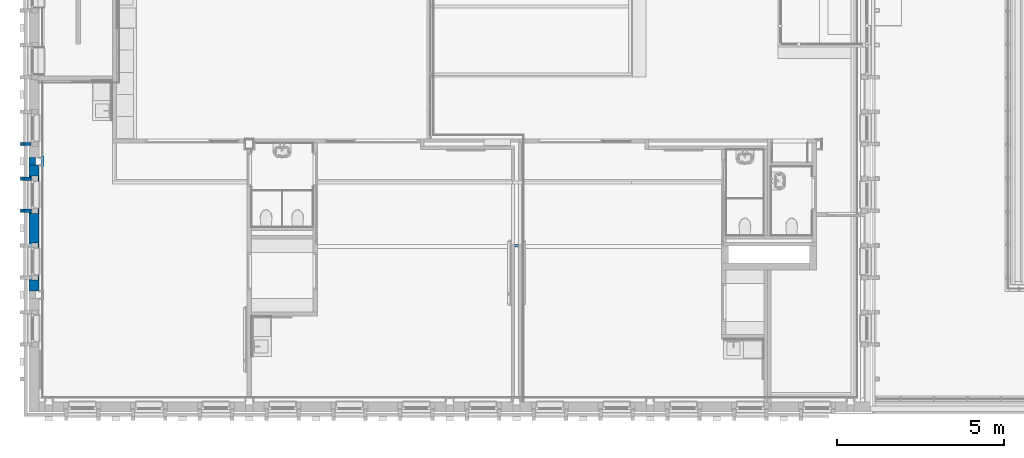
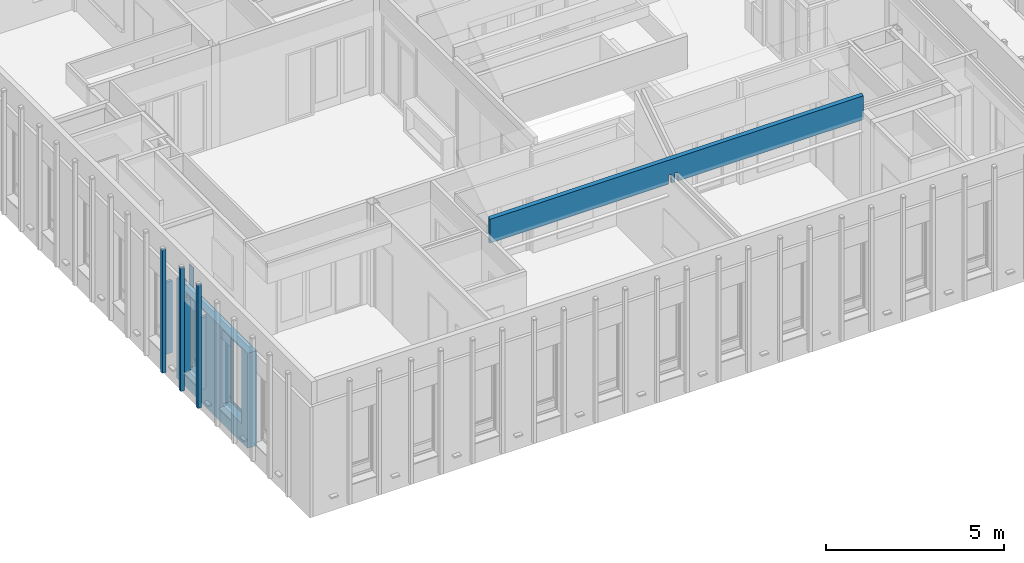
# One storey, part 33 of 118: 10 walls, 11 openings.
"""IFC2X3 building model written with IfcOpenShell, lengths in millimetres."""

from ifc_helpers import new_model, entity, si_unit, converted_unit, derived_unit, direction, frame, frame_2d, origin, place, context, subcontext, project, spatial, polyline, rectangle, extrude, clip, bounded_halfspace, faceted_brep, material, layer, layer_set, layer_usage, type_object, element, save


model = new_model("IFC2X3")

# Units and contexts
model_context = context("Model", 3, precision=0.01, world=origin(), true_north=direction((6.123031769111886e-17, 1.0)))
plan_context = context("Plan", 3, precision=0.01, world=origin(), true_north=direction((6.123031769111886e-17, 1.0)))
body_context = subcontext(model_context, "Body", "Model", "MODEL_VIEW")
ifc_project = project(units=[si_unit("LENGTHUNIT", "METRE", prefix="MILLI"), si_unit("AREAUNIT", "SQUARE_METRE"), si_unit("VOLUMEUNIT", "CUBIC_METRE"), converted_unit("PLANEANGLEUNIT", "DEGREE", entity("IfcRatioMeasure", 0.017453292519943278), si_unit("PLANEANGLEUNIT", "RADIAN"), dimensions=[0, 0, 0, 0, 0, 0, 0]), si_unit("MASSUNIT", "GRAM", prefix="KILO"), derived_unit("MASSDENSITYUNIT", [(si_unit("MASSUNIT", "GRAM", prefix="KILO"), 1), (si_unit("LENGTHUNIT", "METRE"), -3)]), derived_unit("IONCONCENTRATIONUNIT", [(si_unit("MASSUNIT", "GRAM", prefix="KILO"), 1), (si_unit("LENGTHUNIT", "METRE"), -3)]), derived_unit("MOMENTOFINERTIAUNIT", [(si_unit("LENGTHUNIT", "METRE"), 4)]), si_unit("TIMEUNIT", "SECOND"), si_unit("FREQUENCYUNIT", "HERTZ"), si_unit("THERMODYNAMICTEMPERATUREUNIT", "DEGREE_CELSIUS"), derived_unit("THERMALTRANSMITTANCEUNIT", [(si_unit("MASSUNIT", "GRAM", prefix="KILO"), 1), (si_unit("THERMODYNAMICTEMPERATUREUNIT", "KELVIN"), -1), (si_unit("TIMEUNIT", "SECOND"), -3)]), derived_unit("THERMALCONDUCTANCEUNIT", [(si_unit("MASSUNIT", "GRAM", prefix="KILO"), 1), (si_unit("THERMODYNAMICTEMPERATUREUNIT", "KELVIN"), -1), (si_unit("TIMEUNIT", "SECOND"), -3), (si_unit("LENGTHUNIT", "METRE"), 1)]), derived_unit("VOLUMETRICFLOWRATEUNIT", [(si_unit("LENGTHUNIT", "METRE"), 3), (si_unit("TIMEUNIT", "SECOND"), -1)]), derived_unit("MASSFLOWRATEUNIT", [(si_unit("MASSUNIT", "GRAM", prefix="KILO"), 1), (si_unit("TIMEUNIT", "SECOND"), -1)]), derived_unit("ROTATIONALFREQUENCYUNIT", [(si_unit("TIMEUNIT", "SECOND"), -1)]), si_unit("ELECTRICCURRENTUNIT", "AMPERE"), si_unit("ELECTRICVOLTAGEUNIT", "VOLT"), si_unit("POWERUNIT", "WATT"), si_unit("FORCEUNIT", "NEWTON", prefix="KILO"), si_unit("ILLUMINANCEUNIT", "LUX"), si_unit("LUMINOUSFLUXUNIT", "LUMEN"), si_unit("LUMINOUSINTENSITYUNIT", "CANDELA"), derived_unit("USERDEFINED", [(si_unit("MASSUNIT", "GRAM", prefix="KILO"), -1), (si_unit("LENGTHUNIT", "METRE"), -2), (si_unit("TIMEUNIT", "SECOND"), 3), (si_unit("LUMINOUSFLUXUNIT", "LUMEN"), 1)]), derived_unit("USERDEFINED", [(si_unit("MASSUNIT", "GRAM", prefix="KILO"), 1), (si_unit("TIMEUNIT", "SECOND"), -3), (si_unit("LENGTHUNIT", "METRE"), 3), (si_unit("ELECTRICCURRENTUNIT", "AMPERE"), -2)]), derived_unit("SOUNDPOWERUNIT", [(si_unit("MASSUNIT", "GRAM", prefix="KILO"), 1), (si_unit("TIMEUNIT", "SECOND"), -3), (si_unit("LENGTHUNIT", "METRE"), 2)]), derived_unit("SOUNDPRESSUREUNIT", [(si_unit("MASSUNIT", "GRAM", prefix="KILO"), 1), (si_unit("LENGTHUNIT", "METRE"), -1), (si_unit("TIMEUNIT", "SECOND"), -2)]), derived_unit("LINEARVELOCITYUNIT", [(si_unit("LENGTHUNIT", "METRE"), 1), (si_unit("TIMEUNIT", "SECOND"), -1)]), si_unit("PRESSUREUNIT", "PASCAL"), derived_unit("USERDEFINED", [(si_unit("MASSUNIT", "GRAM", prefix="KILO"), 1), (si_unit("LENGTHUNIT", "METRE"), -2), (si_unit("TIMEUNIT", "SECOND"), -2)]), derived_unit("LINEARFORCEUNIT", [(si_unit("MASSUNIT", "GRAM", prefix="KILO"), 1), (si_unit("TIMEUNIT", "SECOND"), -2)]), derived_unit("PLANARFORCEUNIT", [(si_unit("MASSUNIT", "GRAM", prefix="KILO"), 1), (si_unit("LENGTHUNIT", "METRE"), -1), (si_unit("TIMEUNIT", "SECOND"), -2)]), derived_unit("SPECIFICHEATCAPACITYUNIT", [(si_unit("THERMODYNAMICTEMPERATUREUNIT", "KELVIN"), -1), (si_unit("LENGTHUNIT", "METRE"), 2), (si_unit("TIMEUNIT", "SECOND"), -2)]), derived_unit("HEATINGVALUEUNIT", [(si_unit("LENGTHUNIT", "METRE"), 2), (si_unit("TIMEUNIT", "SECOND"), -2)]), derived_unit("VAPORPERMEABILITYUNIT", [(si_unit("LENGTHUNIT", "METRE"), -1), (si_unit("TIMEUNIT", "SECOND"), 1)]), derived_unit("DYNAMICVISCOSITYUNIT", [(si_unit("MASSUNIT", "GRAM", prefix="KILO"), 1), (si_unit("TIMEUNIT", "SECOND"), -1), (si_unit("LENGTHUNIT", "METRE"), -1)]), derived_unit("THERMALEXPANSIONCOEFFICIENTUNIT", [(si_unit("THERMODYNAMICTEMPERATUREUNIT", "KELVIN"), -1)]), derived_unit("MODULUSOFELASTICITYUNIT", [(si_unit("MASSUNIT", "GRAM", prefix="KILO"), 1), (si_unit("LENGTHUNIT", "METRE"), -1), (si_unit("TIMEUNIT", "SECOND"), -2)]), derived_unit("ISOTHERMALMOISTURECAPACITYUNIT", [(si_unit("LENGTHUNIT", "METRE"), 3), (si_unit("MASSUNIT", "GRAM", prefix="KILO"), -1)]), derived_unit("MOISTUREDIFFUSIVITYUNIT", [(si_unit("TIMEUNIT", "SECOND"), -1), (si_unit("LENGTHUNIT", "METRE"), 2)])], contexts=[model_context, plan_context])

# Site, building, storey
site_placement = place(None, origin())
site = spatial("IfcSite", under=ifc_project, at=site_placement, Name="Locatie", CompositionType="ELEMENT")
building_placement = place(site_placement, origin())
building = spatial("IfcBuilding", under=site, at=building_placement, Name="Bouwwerk", CompositionType="ELEMENT")
storey_placement = place(building_placement, frame((0.0, 0.0, 7800.0)))
storey = spatial("IfcBuildingStorey", under=building, at=storey_placement, Name="02 tweede verdieping", CompositionType="ELEMENT", Elevation=7800.000000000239)

# Wall, openings
ifc_material_1 = material(Name="n7_isolatie_glaswol")
ifc_layer_1 = layer(ifc_material_1, 30.0)
ifc_layer_2 = layer(ifc_material_1, 245.0)
ifc_material_2 = material(Name="i4_multiplex")
ifc_layer_3 = layer(ifc_material_2, 12.0)
ifc_material_3 = material(Name="f7_gipsvezel")
ifc_layer_4 = layer(ifc_material_3, 13.000000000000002)
ifc_layer_set_1 = layer_set([ifc_layer_1, ifc_layer_2, ifc_layer_3, ifc_layer_4], Name="Basic Wall:NLRS_22_WA_HSB bispouw 30-245-12-13 glaswol_gen_ISR")
ifc_layer_usage_1 = layer_usage(ifc_layer_set_1, "AXIS2", "NEGATIVE", 150.0)
wall_type_1 = type_object("IfcWallType", Name="Basic Wall:NLRS_22_WA_HSB bispouw 30-245-12-13 glaswol_gen_ISR", PredefinedType="STANDARD", material=ifc_layer_set_1)
wall_1_placement = place(storey_placement, frame((9850.0, 13310.0, -30.0), z_axis=(0.0, 0.0, 1.0), x_axis=(0.0, 1.0, 0.0)))
wall_1 = element("IfcWallStandardCase", 1, at=wall_1_placement, inside=storey, type_object=wall_type_1, material=ifc_layer_usage_1, Name="Basic Wall:NLRS_22_WA_HSB bispouw 30-245-12-13 glaswol_gen_ISR", ObjectType="Basic Wall:NLRS_22_WA_HSB bispouw 30-245-12-13 glaswol_gen_ISR", context=body_context, shape_type="SweptSolid", body=[
    extrude(rectangle(XDim=3779.2445138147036, YDim=300.0000000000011, at=frame_2d((1889.6222569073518, 0.0), x_axis=(-1.0, 0.0))), origin(), (0.0, 0.0, 1.0), 3266.0000000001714),
])
opening_1_placement = place(wall_1_placement, frame((-1666.0, 290.0, 633.0)))
element("IfcOpeningElement", 2, at=opening_1_placement, cuts=wall_1, Name="Basic Wall:NLRS_22_WA_HSB bispouw 30-245-12-13 glaswol_gen_ISR", ObjectType="Opening", context=body_context, shape_type="Brep", body=[
    faceted_brep([(1088.0, -100.0, 2472.0), (1009.0, -100.0, 2472.0), (1009.0, -100.0, 42.0), (103.0, -100.0, 42.0), (103.0, -100.0, 2472.0), (24.0, -100.0, 2472.0), (24.0, -100.0, 0.0), (1088.0, -100.0, 0.0), (24.0, 0.0, 2472.0), (1088.0, 0.0, 2472.0), (1088.0, 0.0, 0.0), (24.0, 0.0, 0.0), (0.0, -415.0, 2594.0), (0.0, -415.0, 11.0), (1112.0, -415.0, 11.0), (1112.0, -415.0, 2594.0), (148.0, -415.0, 2443.0), (964.0, -415.0, 2443.0), (964.0, -415.0, 87.0), (148.0, -415.0, 87.0), (0.0, -140.0, 2594.0), (1112.0, -140.0, 2594.0), (1112.0, -140.0, 11.0), (0.0, -140.0, 11.0), (103.0, -140.0, 42.0), (1009.0, -140.0, 42.0), (1009.0, -140.0, 2508.0), (103.0, -140.0, 2508.0), (1009.0, -100.0, 2508.0), (103.0, -100.0, 2508.0), (148.0, -615.0, 2443.0), (148.0, -615.0, 87.0), (964.0, -615.0, 87.0), (964.0, -615.0, 2443.0)], [[[0, 1, 2, 3, 4, 5, 6, 7]], [[8, 9, 10, 11]], [[5, 8, 11, 6]], [[6, 11, 10, 7]], [[7, 10, 9, 0]], [[8, 5, 4, 1, 0, 9]], [[12, 13, 14, 15], [16, 17, 18, 19]], [[20, 21, 22, 23], [24, 25, 26, 27]], [[12, 20, 23, 13]], [[13, 23, 22, 14]], [[14, 22, 21, 15]], [[15, 21, 20, 12]], [[28, 1, 4, 29]], [[24, 27, 29, 4, 3]], [[3, 2, 25, 24]], [[2, 1, 28, 26, 25]], [[29, 27, 26, 28]], [[30, 31, 32, 33]], [[30, 16, 19, 31]], [[31, 19, 18, 32]], [[32, 18, 17, 33]], [[33, 17, 16, 30]]]),
])
opening_2_placement = place(wall_1_placement, frame((4334.0, 290.0, 633.0)))
element("IfcOpeningElement", 3, at=opening_2_placement, cuts=wall_1, Name="Basic Wall:NLRS_22_WA_HSB bispouw 30-245-12-13 glaswol_gen_ISR", ObjectType="Opening", context=body_context, shape_type="Brep", body=[
    faceted_brep([(1088.0, -100.0, 2472.0), (1009.0, -100.0, 2472.0), (1009.0, -100.0, 42.0), (103.0, -100.0, 42.0), (103.0, -100.0, 2472.0), (24.0, -100.0, 2472.0), (24.0, -100.0, 0.0), (1088.0, -100.0, 0.0), (24.0, 0.0, 2472.0), (1088.0, 0.0, 2472.0), (1088.0, 0.0, 0.0), (24.0, 0.0, 0.0), (0.0, -415.0, 2594.0), (0.0, -415.0, 11.0), (1112.0, -415.0, 11.0), (1112.0, -415.0, 2594.0), (148.0, -415.0, 2443.0), (964.0, -415.0, 2443.0), (964.0, -415.0, 87.0), (148.0, -415.0, 87.0), (0.0, -140.0, 2594.0), (1112.0, -140.0, 2594.0), (1112.0, -140.0, 11.0), (0.0, -140.0, 11.0), (103.0, -140.0, 42.0), (1009.0, -140.0, 42.0), (1009.0, -140.0, 2508.0), (103.0, -140.0, 2508.0), (1009.0, -100.0, 2508.0), (103.0, -100.0, 2508.0), (148.0, -615.0, 2443.0), (148.0, -615.0, 87.0), (964.0, -615.0, 87.0), (964.0, -615.0, 2443.0)], [[[0, 1, 2, 3, 4, 5, 6, 7]], [[8, 9, 10, 11]], [[5, 8, 11, 6]], [[6, 11, 10, 7]], [[7, 10, 9, 0]], [[8, 5, 4, 1, 0, 9]], [[12, 13, 14, 15], [16, 17, 18, 19]], [[20, 21, 22, 23], [24, 25, 26, 27]], [[12, 20, 23, 13]], [[13, 23, 22, 14]], [[14, 22, 21, 15]], [[15, 21, 20, 12]], [[28, 1, 4, 29]], [[24, 27, 29, 4, 3]], [[3, 2, 25, 24]], [[2, 1, 28, 26, 25]], [[29, 27, 26, 28]], [[30, 31, 32, 33]], [[30, 16, 19, 31]], [[31, 19, 18, 32]], [[32, 18, 17, 33]], [[33, 17, 16, 30]]]),
])
opening_3_placement = place(wall_1_placement, frame((6334.0, 290.0, 633.0)))
element("IfcOpeningElement", 4, at=opening_3_placement, cuts=wall_1, Name="Basic Wall:NLRS_22_WA_HSB bispouw 30-245-12-13 glaswol_gen_ISR", ObjectType="Opening", context=body_context, shape_type="Brep", body=[
    faceted_brep([(24.0, -100.0, 0.0), (24.0, 0.0, 0.0), (1088.0, 0.0, 0.0), (1088.0, -100.0, 0.0), (0.0, -415.0, 11.0), (0.0, -140.0, 11.0), (1112.0, -140.0, 11.0), (1112.0, -415.0, 11.0), (103.0, -100.0, 42.0), (1009.0, -100.0, 42.0), (1009.0, -140.0, 42.0), (103.0, -140.0, 42.0), (1088.0, -100.0, 2472.0), (1009.0, -100.0, 2472.0), (103.0, -100.0, 2472.0), (24.0, -100.0, 2472.0), (24.0, 0.0, 2472.0), (1088.0, 0.0, 2472.0), (0.0, -415.0, 2594.0), (1112.0, -415.0, 2594.0), (148.0, -415.0, 2443.0), (964.0, -415.0, 2443.0), (964.0, -415.0, 87.0), (148.0, -415.0, 87.0), (0.0, -140.0, 2594.0), (1112.0, -140.0, 2594.0), (1009.0, -140.0, 2508.0), (103.0, -140.0, 2508.0), (1009.0, -100.0, 2508.0), (103.0, -100.0, 2508.0), (148.0, -615.0, 2443.0), (148.0, -615.0, 87.0), (964.0, -615.0, 87.0), (964.0, -615.0, 2443.0)], [[[0, 1, 2, 3]], [[4, 5, 6, 7]], [[8, 9, 10, 11]], [[12, 13, 9, 8, 14, 15, 0, 3]], [[16, 17, 2, 1]], [[15, 16, 1, 0]], [[3, 2, 17, 12]], [[16, 15, 14, 13, 12, 17]], [[18, 4, 7, 19], [20, 21, 22, 23]], [[24, 25, 6, 5], [11, 10, 26, 27]], [[18, 24, 5, 4]], [[7, 6, 25, 19]], [[19, 25, 24, 18]], [[28, 13, 14, 29]], [[11, 27, 29, 14, 8]], [[9, 13, 28, 26, 10]], [[29, 27, 26, 28]], [[30, 31, 32, 33]], [[30, 20, 23, 31]], [[31, 23, 22, 32]], [[32, 22, 21, 33]], [[33, 21, 20, 30]]]),
])
opening_4_placement = place(wall_1_placement, frame((8334.0, 290.0, 633.0)))
element("IfcOpeningElement", 5, at=opening_4_placement, cuts=wall_1, Name="Basic Wall:NLRS_22_WA_HSB bispouw 30-245-12-13 glaswol_gen_ISR", ObjectType="Opening", context=body_context, shape_type="Brep", body=[
    faceted_brep([(24.0, -100.0, 0.0), (24.0, 0.0, 0.0), (1088.0, 0.0, 0.0), (1088.0, -100.0, 0.0), (0.0, -415.0, 11.0), (0.0, -140.0, 11.0), (1112.0, -140.0, 11.0), (1112.0, -415.0, 11.0), (103.0, -100.0, 42.0), (1009.0, -100.0, 42.0), (1009.0, -140.0, 42.0), (103.0, -140.0, 42.0), (1088.0, -100.0, 2472.0), (1009.0, -100.0, 2472.0), (103.0, -100.0, 2472.0), (24.0, -100.0, 2472.0), (24.0, 0.0, 2472.0), (1088.0, 0.0, 2472.0), (0.0, -415.0, 2594.0), (1112.0, -415.0, 2594.0), (148.0, -415.0, 2443.0), (964.0, -415.0, 2443.0), (964.0, -415.0, 87.0), (148.0, -415.0, 87.0), (0.0, -140.0, 2594.0), (1112.0, -140.0, 2594.0), (1009.0, -140.0, 2508.0), (103.0, -140.0, 2508.0), (1009.0, -100.0, 2508.0), (103.0, -100.0, 2508.0), (148.0, -615.0, 2443.0), (148.0, -615.0, 87.0), (964.0, -615.0, 87.0), (964.0, -615.0, 2443.0)], [[[0, 1, 2, 3]], [[4, 5, 6, 7]], [[8, 9, 10, 11]], [[12, 13, 9, 8, 14, 15, 0, 3]], [[16, 17, 2, 1]], [[15, 16, 1, 0]], [[3, 2, 17, 12]], [[16, 15, 14, 13, 12, 17]], [[18, 4, 7, 19], [20, 21, 22, 23]], [[24, 25, 6, 5], [11, 10, 26, 27]], [[18, 24, 5, 4]], [[7, 6, 25, 19]], [[19, 25, 24, 18]], [[28, 13, 14, 29]], [[11, 27, 29, 14, 8]], [[9, 13, 28, 26, 10]], [[29, 27, 26, 28]], [[30, 31, 32, 33]], [[30, 20, 23, 31]], [[31, 23, 22, 32]], [[32, 22, 21, 33]], [[33, 21, 20, 30]]]),
])
opening_5_placement = place(wall_1_placement, frame((10334.0, 290.0, 633.0)))
element("IfcOpeningElement", 6, at=opening_5_placement, cuts=wall_1, Name="Basic Wall:NLRS_22_WA_HSB bispouw 30-245-12-13 glaswol_gen_ISR", ObjectType="Opening", context=body_context, shape_type="Brep", body=[
    faceted_brep([(1088.0, -100.0, 2472.0), (1009.0, -100.0, 2472.0), (1009.0, -100.0, 42.0), (103.0, -100.0, 42.0), (103.0, -100.0, 2472.0), (24.0, -100.0, 2472.0), (24.0, -100.0, 0.0), (1088.0, -100.0, 0.0), (24.0, 0.0, 2472.0), (1088.0, 0.0, 2472.0), (1088.0, 0.0, 0.0), (24.0, 0.0, 0.0), (0.0, -415.0, 2594.0), (0.0, -415.0, 11.0), (1112.0, -415.0, 11.0), (1112.0, -415.0, 2594.0), (148.0, -415.0, 2443.0), (964.0, -415.0, 2443.0), (964.0, -415.0, 87.0), (148.0, -415.0, 87.0), (0.0, -140.0, 2594.0), (1112.0, -140.0, 2594.0), (1112.0, -140.0, 11.0), (0.0, -140.0, 11.0), (103.0, -140.0, 42.0), (1009.0, -140.0, 42.0), (1009.0, -140.0, 2508.0), (103.0, -140.0, 2508.0), (1009.0, -100.0, 2508.0), (103.0, -100.0, 2508.0), (148.0, -615.0, 2443.0), (148.0, -615.0, 87.0), (964.0, -615.0, 87.0), (964.0, -615.0, 2443.0)], [[[0, 1, 2, 3, 4, 5, 6, 7]], [[8, 9, 10, 11]], [[5, 8, 11, 6]], [[6, 11, 10, 7]], [[7, 10, 9, 0]], [[8, 5, 4, 1, 0, 9]], [[12, 13, 14, 15], [16, 17, 18, 19]], [[20, 21, 22, 23], [24, 25, 26, 27]], [[12, 20, 23, 13]], [[13, 23, 22, 14]], [[14, 22, 21, 15]], [[15, 21, 20, 12]], [[28, 1, 4, 29]], [[24, 27, 29, 4, 3]], [[3, 2, 25, 24]], [[2, 1, 28, 26, 25]], [[29, 27, 26, 28]], [[30, 31, 32, 33]], [[30, 16, 19, 31]], [[31, 19, 18, 32]], [[32, 18, 17, 33]], [[33, 17, 16, 30]]]),
])
opening_6_placement = place(wall_1_placement, frame((12334.0, 290.0, 633.0)))
element("IfcOpeningElement", 7, at=opening_6_placement, cuts=wall_1, Name="Basic Wall:NLRS_22_WA_HSB bispouw 30-245-12-13 glaswol_gen_ISR", ObjectType="Opening", context=body_context, shape_type="Brep", body=[
    faceted_brep([(1088.0, -100.0, 2472.0), (1009.0, -100.0, 2472.0), (1009.0, -100.0, 42.0), (103.0, -100.0, 42.0), (103.0, -100.0, 2472.0), (24.0, -100.0, 2472.0), (24.0, -100.0, 0.0), (1088.0, -100.0, 0.0), (24.0, 0.0, 2472.0), (1088.0, 0.0, 2472.0), (1088.0, 0.0, 0.0), (24.0, 0.0, 0.0), (0.0, -415.0, 2594.0), (0.0, -415.0, 11.0), (1112.0, -415.0, 11.0), (1112.0, -415.0, 2594.0), (148.0, -415.0, 2443.0), (964.0, -415.0, 2443.0), (964.0, -415.0, 87.0), (148.0, -415.0, 87.0), (0.0, -140.0, 2594.0), (1112.0, -140.0, 2594.0), (1112.0, -140.0, 11.0), (0.0, -140.0, 11.0), (103.0, -140.0, 42.0), (1009.0, -140.0, 42.0), (1009.0, -140.0, 2508.0), (103.0, -140.0, 2508.0), (1009.0, -100.0, 2508.0), (103.0, -100.0, 2508.0), (148.0, -615.0, 2443.0), (148.0, -615.0, 87.0), (964.0, -615.0, 87.0), (964.0, -615.0, 2443.0)], [[[0, 1, 2, 3, 4, 5, 6, 7]], [[8, 9, 10, 11]], [[5, 8, 11, 6]], [[6, 11, 10, 7]], [[7, 10, 9, 0]], [[8, 5, 4, 1, 0, 9]], [[12, 13, 14, 15], [16, 17, 18, 19]], [[20, 21, 22, 23], [24, 25, 26, 27]], [[12, 20, 23, 13]], [[13, 23, 22, 14]], [[14, 22, 21, 15]], [[15, 21, 20, 12]], [[28, 1, 4, 29]], [[24, 27, 29, 4, 3]], [[3, 2, 25, 24]], [[2, 1, 28, 26, 25]], [[29, 27, 26, 28]], [[30, 31, 32, 33]], [[30, 16, 19, 31]], [[31, 19, 18, 32]], [[32, 18, 17, 33]], [[33, 17, 16, 30]]]),
])
opening_7_placement = place(wall_1_placement, frame((14334.0, 290.0, 633.0)))
element("IfcOpeningElement", 8, at=opening_7_placement, cuts=wall_1, Name="Basic Wall:NLRS_22_WA_HSB bispouw 30-245-12-13 glaswol_gen_ISR", ObjectType="Opening", context=body_context, shape_type="Brep", body=[
    faceted_brep([(1088.0, -100.0, 2472.0), (1009.0, -100.0, 2472.0), (1009.0, -100.0, 42.0), (103.0, -100.0, 42.0), (103.0, -100.0, 2472.0), (24.0, -100.0, 2472.0), (24.0, -100.0, 0.0), (1088.0, -100.0, 0.0), (24.0, 0.0, 2472.0), (1088.0, 0.0, 2472.0), (1088.0, 0.0, 0.0), (24.0, 0.0, 0.0), (0.0, -415.0, 2594.0), (0.0, -415.0, 11.0), (1112.0, -415.0, 11.0), (1112.0, -415.0, 2594.0), (148.0, -415.0, 2443.0), (964.0, -415.0, 2443.0), (964.0, -415.0, 87.0), (148.0, -415.0, 87.0), (0.0, -140.0, 2594.0), (1112.0, -140.0, 2594.0), (1112.0, -140.0, 11.0), (0.0, -140.0, 11.0), (103.0, -140.0, 42.0), (1009.0, -140.0, 42.0), (1009.0, -140.0, 2508.0), (103.0, -140.0, 2508.0), (1009.0, -100.0, 2508.0), (103.0, -100.0, 2508.0), (148.0, -615.0, 2443.0), (148.0, -615.0, 87.0), (964.0, -615.0, 87.0), (964.0, -615.0, 2443.0)], [[[0, 1, 2, 3, 4, 5, 6, 7]], [[8, 9, 10, 11]], [[5, 8, 11, 6]], [[6, 11, 10, 7]], [[7, 10, 9, 0]], [[8, 5, 4, 1, 0, 9]], [[12, 13, 14, 15], [16, 17, 18, 19]], [[20, 21, 22, 23], [24, 25, 26, 27]], [[12, 20, 23, 13]], [[13, 23, 22, 14]], [[14, 22, 21, 15]], [[15, 21, 20, 12]], [[28, 1, 4, 29]], [[24, 27, 29, 4, 3]], [[3, 2, 25, 24]], [[2, 1, 28, 26, 25]], [[29, 27, 26, 28]], [[30, 31, 32, 33]], [[30, 16, 19, 31]], [[31, 19, 18, 32]], [[32, 18, 17, 33]], [[33, 17, 16, 30]]]),
])
opening_8_placement = place(wall_1_placement, frame((16334.0, 290.0, 633.0)))
element("IfcOpeningElement", 9, at=opening_8_placement, cuts=wall_1, Name="Basic Wall:NLRS_22_WA_HSB bispouw 30-245-12-13 glaswol_gen_ISR", ObjectType="Opening", context=body_context, shape_type="Brep", body=[
    faceted_brep([(1088.0, -100.0, 2472.0), (1009.0, -100.0, 2472.0), (1009.0, -100.0, 42.0), (103.0, -100.0, 42.0), (103.0, -100.0, 2472.0), (24.0, -100.0, 2472.0), (24.0, -100.0, 0.0), (1088.0, -100.0, 0.0), (24.0, 0.0, 2472.0), (1088.0, 0.0, 2472.0), (1088.0, 0.0, 0.0), (24.0, 0.0, 0.0), (0.0, -415.0, 2594.0), (0.0, -415.0, 11.0), (1112.0, -415.0, 11.0), (1112.0, -415.0, 2594.0), (148.0, -415.0, 2443.0), (964.0, -415.0, 2443.0), (964.0, -415.0, 87.0), (148.0, -415.0, 87.0), (0.0, -140.0, 2594.0), (1112.0, -140.0, 2594.0), (1112.0, -140.0, 11.0), (0.0, -140.0, 11.0), (103.0, -140.0, 42.0), (1009.0, -140.0, 42.0), (1009.0, -140.0, 2508.0), (103.0, -140.0, 2508.0), (1009.0, -100.0, 2508.0), (103.0, -100.0, 2508.0), (148.0, -615.0, 2443.0), (148.0, -615.0, 87.0), (964.0, -615.0, 87.0), (964.0, -615.0, 2443.0)], [[[0, 1, 2, 3, 4, 5, 6, 7]], [[8, 9, 10, 11]], [[5, 8, 11, 6]], [[6, 11, 10, 7]], [[7, 10, 9, 0]], [[8, 5, 4, 1, 0, 9]], [[12, 13, 14, 15], [16, 17, 18, 19]], [[20, 21, 22, 23], [24, 25, 26, 27]], [[12, 20, 23, 13]], [[13, 23, 22, 14]], [[14, 22, 21, 15]], [[15, 21, 20, 12]], [[28, 1, 4, 29]], [[24, 27, 29, 4, 3]], [[3, 2, 25, 24]], [[2, 1, 28, 26, 25]], [[29, 27, 26, 28]], [[30, 31, 32, 33]], [[30, 16, 19, 31]], [[31, 19, 18, 32]], [[32, 18, 17, 33]], [[33, 17, 16, 30]]]),
])
opening_9_placement = place(wall_1_placement, frame((18334.0, 290.0, 633.0)))
element("IfcOpeningElement", 10, at=opening_9_placement, cuts=wall_1, Name="Basic Wall:NLRS_22_WA_HSB bispouw 30-245-12-13 glaswol_gen_ISR", ObjectType="Opening", context=body_context, shape_type="Brep", body=[
    faceted_brep([(1088.0, -100.0, 2472.0), (1009.0, -100.0, 2472.0), (1009.0, -100.0, 42.0), (103.0, -100.0, 42.0), (103.0, -100.0, 2472.0), (24.0, -100.0, 2472.0), (24.0, -100.0, 0.0), (1088.0, -100.0, 0.0), (24.0, 0.0, 2472.0), (1088.0, 0.0, 2472.0), (1088.0, 0.0, 0.0), (24.0, 0.0, 0.0), (0.0, -415.0, 2594.0), (0.0, -415.0, 11.0), (1112.0, -415.0, 11.0), (1112.0, -415.0, 2594.0), (148.0, -415.0, 2443.0), (964.0, -415.0, 2443.0), (964.0, -415.0, 87.0), (148.0, -415.0, 87.0), (0.0, -140.0, 2594.0), (1112.0, -140.0, 2594.0), (1112.0, -140.0, 11.0), (0.0, -140.0, 11.0), (103.0, -140.0, 42.0), (1009.0, -140.0, 42.0), (1009.0, -140.0, 2508.0), (103.0, -140.0, 2508.0), (1009.0, -100.0, 2508.0), (103.0, -100.0, 2508.0), (148.0, -615.0, 2443.0), (148.0, -615.0, 87.0), (964.0, -615.0, 87.0), (964.0, -615.0, 2443.0)], [[[0, 1, 2, 3, 4, 5, 6, 7]], [[8, 9, 10, 11]], [[5, 8, 11, 6]], [[6, 11, 10, 7]], [[7, 10, 9, 0]], [[8, 5, 4, 1, 0, 9]], [[12, 13, 14, 15], [16, 17, 18, 19]], [[20, 21, 22, 23], [24, 25, 26, 27]], [[12, 20, 23, 13]], [[13, 23, 22, 14]], [[14, 22, 21, 15]], [[15, 21, 20, 12]], [[28, 1, 4, 29]], [[24, 27, 29, 4, 3]], [[3, 2, 25, 24]], [[2, 1, 28, 26, 25]], [[29, 27, 26, 28]], [[30, 31, 32, 33]], [[30, 16, 19, 31]], [[31, 19, 18, 32]], [[32, 18, 17, 33]], [[33, 17, 16, 30]]]),
])
opening_10_placement = place(wall_1_placement, frame((2334.0, 290.0, 633.0), z_axis=(0.0, 0.0, 1.0), x_axis=(0.0, -1.0, 0.0)))
element("IfcOpeningElement", 11, at=opening_10_placement, cuts=wall_1, Name="Basic Wall:NLRS_22_WA_HSB bispouw 30-245-12-13 glaswol_gen_ISR", ObjectType="Opening", context=body_context, shape_type="Brep", body=[
    faceted_brep([(100.0, 1088.0, 2472.0), (100.0, 1009.0, 2472.0), (100.0, 1009.0, 42.0), (100.0, 103.0, 42.0), (100.0, 103.0, 2472.0), (100.0, 24.0, 2472.0), (100.0, 24.0, 0.0), (100.0, 1088.0, 0.0), (0.0, 24.0, 2472.0), (0.0, 1088.0, 2472.0), (0.0, 1088.0, 0.0), (0.0, 24.0, 0.0), (415.0, 0.0, 2594.0), (415.0, 0.0, 11.0), (415.0, 1112.0, 11.0), (415.0, 1112.0, 2594.0), (415.0, 148.0, 2443.0), (415.0, 964.0, 2443.0), (415.0, 964.0, 87.0), (415.0, 148.0, 87.0), (140.0, 0.0, 2594.0), (140.0, 1112.0, 2594.0), (140.0, 1112.0, 11.0), (140.0, 0.0, 11.0), (140.0, 103.0, 42.0), (140.0, 1009.0, 42.0), (140.0, 1009.0, 2508.0), (140.0, 103.0, 2508.0), (100.0, 1009.0, 2508.0), (100.0, 103.0, 2508.0), (615.0, 148.0, 2443.0), (615.0, 148.0, 87.0), (615.0, 964.0, 87.0), (615.0, 964.0, 2443.0)], [[[0, 1, 2, 3, 4, 5, 6, 7]], [[8, 9, 10, 11]], [[5, 8, 11, 6]], [[6, 11, 10, 7]], [[7, 10, 9, 0]], [[8, 5, 4, 1, 0, 9]], [[12, 13, 14, 15], [16, 17, 18, 19]], [[20, 21, 22, 23], [24, 25, 26, 27]], [[12, 20, 23, 13]], [[13, 23, 22, 14]], [[14, 22, 21, 15]], [[15, 21, 20, 12]], [[28, 1, 4, 29]], [[24, 27, 29, 4, 3]], [[3, 2, 25, 24]], [[2, 1, 28, 26, 25]], [[29, 27, 26, 28]], [[30, 31, 32, 33]], [[30, 16, 19, 31]], [[31, 19, 18, 32]], [[32, 18, 17, 33]], [[33, 17, 16, 30]]]),
])
opening_11_placement = place(wall_1_placement, frame((334.0, 290.0, 633.0), z_axis=(0.0, 0.0, 1.0), x_axis=(0.0, -1.0, 0.0)))
element("IfcOpeningElement", 12, at=opening_11_placement, cuts=wall_1, Name="Basic Wall:NLRS_22_WA_HSB bispouw 30-245-12-13 glaswol_gen_ISR", ObjectType="Opening", context=body_context, shape_type="Brep", body=[
    faceted_brep([(100.0, 1088.0, 2472.0), (100.0, 1009.0, 2472.0), (100.0, 1009.0, 42.0), (100.0, 103.0, 42.0), (100.0, 103.0, 2472.0), (100.0, 24.0, 2472.0), (100.0, 24.0, 0.0), (100.0, 1088.0, 0.0), (0.0, 24.0, 2472.0), (0.0, 1088.0, 2472.0), (0.0, 1088.0, 0.0), (0.0, 24.0, 0.0), (415.0, 0.0, 2594.0), (415.0, 0.0, 11.0), (415.0, 1112.0, 11.0), (415.0, 1112.0, 2594.0), (415.0, 148.0, 2443.0), (415.0, 964.0, 2443.0), (415.0, 964.0, 87.0), (415.0, 148.0, 87.0), (140.0, 0.0, 2594.0), (140.0, 1112.0, 2594.0), (140.0, 1112.0, 11.0), (140.0, 0.0, 11.0), (140.0, 103.0, 42.0), (140.0, 1009.0, 42.0), (140.0, 1009.0, 2508.0), (140.0, 103.0, 2508.0), (100.0, 1009.0, 2508.0), (100.0, 103.0, 2508.0), (615.0, 148.0, 2443.0), (615.0, 148.0, 87.0), (615.0, 964.0, 87.0), (615.0, 964.0, 2443.0)], [[[0, 1, 2, 3, 4, 5, 6, 7]], [[8, 9, 10, 11]], [[5, 8, 11, 6]], [[6, 11, 10, 7]], [[7, 10, 9, 0]], [[8, 5, 4, 1, 0, 9]], [[12, 13, 14, 15], [16, 17, 18, 19]], [[20, 21, 22, 23], [24, 25, 26, 27]], [[12, 20, 23, 13]], [[13, 23, 22, 14]], [[14, 22, 21, 15]], [[15, 21, 20, 12]], [[28, 1, 4, 29]], [[24, 27, 29, 4, 3]], [[3, 2, 25, 24]], [[2, 1, 28, 26, 25]], [[29, 27, 26, 28]], [[30, 31, 32, 33]], [[30, 16, 19, 31]], [[31, 19, 18, 32]], [[32, 18, 17, 33]], [[33, 17, 16, 30]]]),
])

# Walls
ifc_material_4 = material(Name="g2_metselwerk_geel licht")
ifc_layer_5 = layer(ifc_material_4, 100.0)
ifc_layer_set_2 = layer_set([ifc_layer_5], Name="Basic Wall:21_WA_metselwerk_licht_100_gen_bdg")
ifc_layer_usage_2 = layer_usage(ifc_layer_set_2, "AXIS2", "NEGATIVE", 50.0)
wall_type_2 = type_object("IfcWallType", Name="Basic Wall:21_WA_metselwerk_licht_100_gen_bdg", PredefinedType="STANDARD", material=ifc_layer_set_2)
wall_2_placement = place(storey_placement, frame((9770.0, 16682.0, 603.0), z_axis=(0.0, 0.0, 1.0), x_axis=(-1.0, 0.0, 0.0)))
element("IfcWallStandardCase", 13, at=wall_2_placement, inside=storey, type_object=wall_type_2, material=ifc_layer_usage_2, Name="Basic Wall:21_WA_metselwerk_licht_100_gen_bdg", ObjectType="Basic Wall:21_WA_metselwerk_licht_100_gen_bdg", context=body_context, shape_type="SweptSolid", body=[
    extrude(rectangle(XDim=210.00000000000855, YDim=99.99999999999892, at=frame_2d((105.00000000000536, 6.181721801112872e-13), x_axis=(-1.0, 0.0))), origin(), (0.0, 0.0, 1.0), 2471.999999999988),
])
wall_3_placement = place(storey_placement, frame((9560.0, 16682.0, 0.0), z_axis=(0.0, 0.0, 1.0), x_axis=(-1.0, 0.0, 0.0)))
element("IfcWallStandardCase", 14, at=wall_3_placement, inside=storey, type_object=wall_type_2, material=ifc_layer_usage_2, Name="Basic Wall:21_WA_metselwerk_licht_100_gen_bdg", ObjectType="Basic Wall:21_WA_metselwerk_licht_100_gen_bdg", context=body_context, shape_type="SweptSolid", body=[
    extrude(rectangle(XDim=114.99999999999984, YDim=99.99999999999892, at=frame_2d((57.49999999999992, -9.201528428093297e-13), x_axis=(-1.0, 0.0))), origin(), (0.0, 0.0, 1.0), 4232.000000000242),
])
ifc_layer_usage_3 = layer_usage(ifc_layer_set_2, "AXIS2", "POSITIVE", -50.0)
wall_4_placement = place(storey_placement, frame((9770.0, 15718.0, 603.0), z_axis=(0.0, 0.0, 1.0), x_axis=(-1.0, 0.0, 0.0)))
element("IfcWallStandardCase", 15, at=wall_4_placement, inside=storey, type_object=wall_type_2, material=ifc_layer_usage_3, Name="Basic Wall:21_WA_metselwerk_licht_100_gen_bdg", ObjectType="Basic Wall:21_WA_metselwerk_licht_100_gen_bdg", context=body_context, shape_type="SweptSolid", body=[
    extrude(rectangle(XDim=210.00000000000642, YDim=99.99999999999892, at=frame_2d((105.00000000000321, -6.394884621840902e-14), x_axis=(-1.0, 0.0))), origin(), (0.0, 0.0, 1.0), 2471.999999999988),
])
wall_5_placement = place(storey_placement, frame((9560.0, 15718.0, 0.0), z_axis=(0.0, 0.0, 1.0), x_axis=(-1.0, 0.0, 0.0)))
element("IfcWallStandardCase", 16, at=wall_5_placement, inside=storey, type_object=wall_type_2, material=ifc_layer_usage_3, Name="Basic Wall:21_WA_metselwerk_licht_100_gen_bdg", ObjectType="Basic Wall:21_WA_metselwerk_licht_100_gen_bdg", context=body_context, shape_type="SweptSolid", body=[
    extrude(rectangle(XDim=114.99999999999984, YDim=99.99999999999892, at=frame_2d((57.49999999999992, -9.201528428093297e-13), x_axis=(-1.0, 0.0))), origin(), (0.0, 0.0, 1.0), 4231.99999999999),
])
wall_6_placement = place(storey_placement, frame((9770.0, 17718.0, 603.0), z_axis=(0.0, 0.0, 1.0), x_axis=(-1.0, 0.0, 0.0)))
element("IfcWallStandardCase", 17, at=wall_6_placement, inside=storey, type_object=wall_type_2, material=ifc_layer_usage_3, Name="Basic Wall:21_WA_metselwerk_licht_100_gen_bdg", ObjectType="Basic Wall:21_WA_metselwerk_licht_100_gen_bdg", context=body_context, shape_type="SweptSolid", body=[
    extrude(rectangle(XDim=210.00000000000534, YDim=99.99999999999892, at=frame_2d((105.00000000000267, -6.394884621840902e-14), x_axis=(-1.0, 0.0))), origin(), (0.0, 0.0, 1.0), 2471.999999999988),
])
wall_7_placement = place(storey_placement, frame((9560.0, 17718.0, 0.0), z_axis=(0.0, 0.0, 1.0), x_axis=(-1.0, 0.0, 0.0)))
element("IfcWallStandardCase", 18, at=wall_7_placement, inside=storey, type_object=wall_type_2, material=ifc_layer_usage_3, Name="Basic Wall:21_WA_metselwerk_licht_100_gen_bdg", ObjectType="Basic Wall:21_WA_metselwerk_licht_100_gen_bdg", context=body_context, shape_type="SweptSolid", body=[
    extrude(rectangle(XDim=114.99999999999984, YDim=99.99999999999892, at=frame_2d((57.49999999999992, -9.201528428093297e-13), x_axis=(-1.0, 0.0))), origin(), (0.0, 0.0, 1.0), 4231.99999999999),
])
ifc_layer_6 = layer(ifc_material_3, 13.000000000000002)
ifc_layer_set_3 = layer_set([ifc_layer_6], Name="Basic Wall:NLRS_41_WA_gips 13_gen_ISR")
ifc_layer_usage_4 = layer_usage(ifc_layer_set_3, "AXIS2", "NEGATIVE", 6.500000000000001)
wall_type_3 = type_object("IfcWallType", Name="Basic Wall:NLRS_41_WA_gips 13_gen_ISR", PredefinedType="STANDARD", material=ifc_layer_set_3)
wall_8_placement = place(storey_placement, frame((10121.500000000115, 17327.244513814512, 0.0), z_axis=(0.0, 0.0, 1.0), x_axis=(0.0, -1.0, 0.0)))
element("IfcWallStandardCase", 19, at=wall_8_placement, inside=storey, type_object=wall_type_3, material=ifc_layer_usage_4, Name="Basic Wall:NLRS_41_WA_gips 13_gen_ISR", ObjectType="Basic Wall:NLRS_41_WA_gips 13_gen_ISR", context=body_context, shape_type="SweptSolid", body=[
    extrude(rectangle(XDim=255.9999999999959, YDim=13.000000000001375, at=frame_2d((127.99999999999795, -4.871658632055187e-13), x_axis=(-1.0, 0.0))), origin(), (0.0, 0.0, 1.0), 3750.000000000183),
])
ifc_layer_7 = layer(ifc_material_3, 13.000000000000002)
ifc_material_5 = material(Name="ISR_Luchtspouw")
ifc_layer_8 = layer(ifc_material_5, 71.0)
ifc_layer_set_4 = layer_set([ifc_layer_7, ifc_layer_8], Name="Basic Wall:22_WA_koof_83 12-71")
ifc_layer_usage_5 = layer_usage(ifc_layer_set_4, "AXIS2", "NEGATIVE", 41.99999999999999)
wall_type_4 = type_object("IfcWallType", Name="Basic Wall:22_WA_koof_83 12-71", PredefinedType="STANDARD", material=ifc_layer_set_4)
wall_9_placement = place(storey_placement, frame((18337.500000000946, 14671.0, 3200.0)))
element("IfcWallStandardCase", 20, at=wall_9_placement, inside=storey, type_object=wall_type_4, material=ifc_layer_usage_5, Name="Basic Wall:22_WA_koof_83 12-71", ObjectType="Basic Wall:22_WA_koof_83 12-71", context=body_context, shape_type="Clipping", body=[
    clip(clip(clip(extrude(rectangle(XDim=12151.000000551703, YDim=83.99999999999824, at=frame_2d((6075.500000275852, 2.2026824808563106e-13), x_axis=(-1.0, 0.0))), origin(), (0.0, 0.0, 1.0), 873.4005968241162), bounded_halfspace(frame((0.0, -42.0, 818.850358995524), z_axis=(0.0, -0.5446390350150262, 0.8386705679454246), x_axis=(1.0, 0.0, 0.0)), False, frame((0.0, -42.0, 818.850358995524)), polyline([(0.0, 0.0), (12151.0, 0.0), (12151.0, 84.0), (6117.499999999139, 84.0), (6017.499999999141, 84.0), (5907.49999999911, 84.0), (5807.4999999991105, 84.0), (0.0, 84.0), (0.0, 0.0)]))), bounded_halfspace(frame((6017.499999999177, -42.0, 300.0)), True, frame((6017.499999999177, -42.0, 300.0)), polyline([(0.0, 0.0), (100.0, 0.0), (100.0, 84.0), (0.0, 84.0), (0.0, 0.0)]))), bounded_halfspace(frame((5807.4999999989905, -42.0, 300.0)), True, frame((5807.4999999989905, -42.0, 300.0)), polyline([(0.0, 0.0), (100.0, 0.0), (100.0, 84.0), (0.0, 84.0), (0.0, 0.0)]))),
])
ifc_material_6 = material(Name="n7_isolatie_Resol")
ifc_layer_9 = layer(ifc_material_6, 200.0)
ifc_layer_set_5 = layer_set([ifc_layer_9], Name="Basic Wall:NLRS_22_WA_HSB bispouw 200_gen_ISR")
ifc_layer_usage_6 = layer_usage(ifc_layer_set_5, "AXIS2", "NEGATIVE", 100.0)
wall_type_5 = type_object("IfcWallType", Name="Basic Wall:NLRS_22_WA_HSB bispouw 200_gen_ISR", PredefinedType="STANDARD", material=ifc_layer_set_5)
wall_10_placement = place(storey_placement, frame((9800.0, 17089.244513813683, -30.0), z_axis=(0.0, 0.0, 1.0), x_axis=(0.0, 1.0, 0.0)))
element("IfcWallStandardCase", 21, at=wall_10_placement, inside=storey, type_object=wall_type_5, material=ifc_layer_usage_6, Name="Basic Wall:NLRS_22_WA_HSB bispouw 200_gen_ISR", ObjectType="Basic Wall:NLRS_22_WA_HSB bispouw 200_gen_ISR", context=body_context, shape_type="SweptSolid", body=[
    extrude(rectangle(XDim=220.00000000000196, YDim=199.99999999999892, at=frame_2d((110.00000000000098, -1.0658141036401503e-13), x_axis=(-1.0, 0.0))), origin(), (0.0, 0.0, 1.0), 3440.0000000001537),
])

save(model, "model.ifc")
